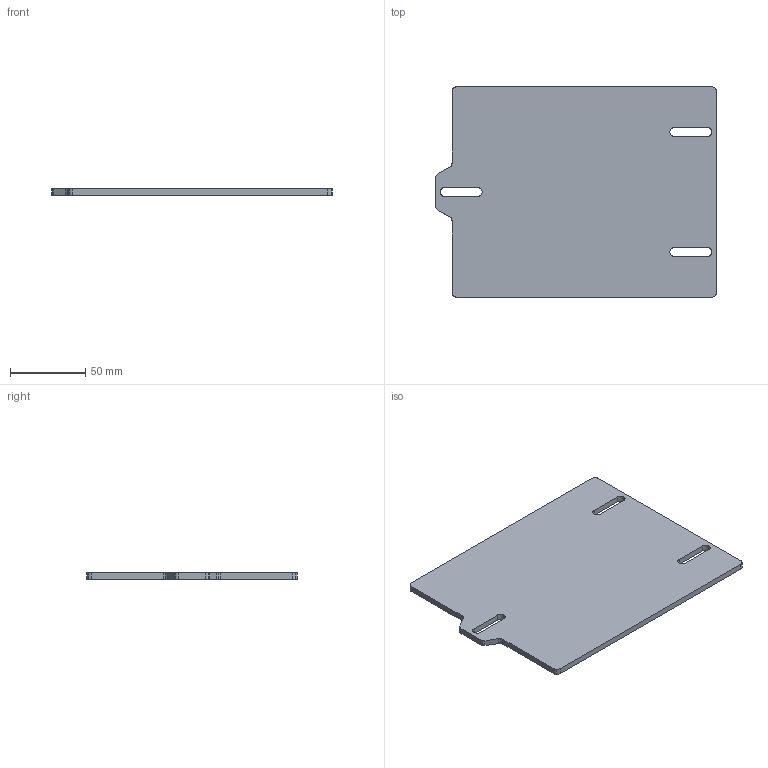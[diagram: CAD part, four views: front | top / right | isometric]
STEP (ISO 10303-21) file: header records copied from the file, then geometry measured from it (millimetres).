
FILE_DESCRIPTION(('STEP AP214'),'1');
FILE_NAME('tmp0.step','2025-06-20T18:37:34',(' '),(' '),'Spatial InterOp 3D',' ',' ');
FILE_SCHEMA(('AUTOMOTIVE_DESIGN { 1 0 10303 214 1 1 1 1 }'));
Length unit declared in the file: millimetre
Products named in the file (1): 1
Bounding box: 187 x 140 x 4 mm (x, y, z)
Volume: 97859.6 mm3; surface area: 52236.6 mm2
Topology: 1 solids, 1 shells, 44 faces, 126 edges, 84 vertices
Faces by surface type: cylinder 28, plane 16
Entity records: 1503 total; most frequent: DIRECTION 272, CARTESIAN_POINT 255, ORIENTED_EDGE 252, EDGE_CURVE 126, AXIS2_PLACEMENT_3D 101, VERTEX_POINT 84, LINE 70, VECTOR 70
